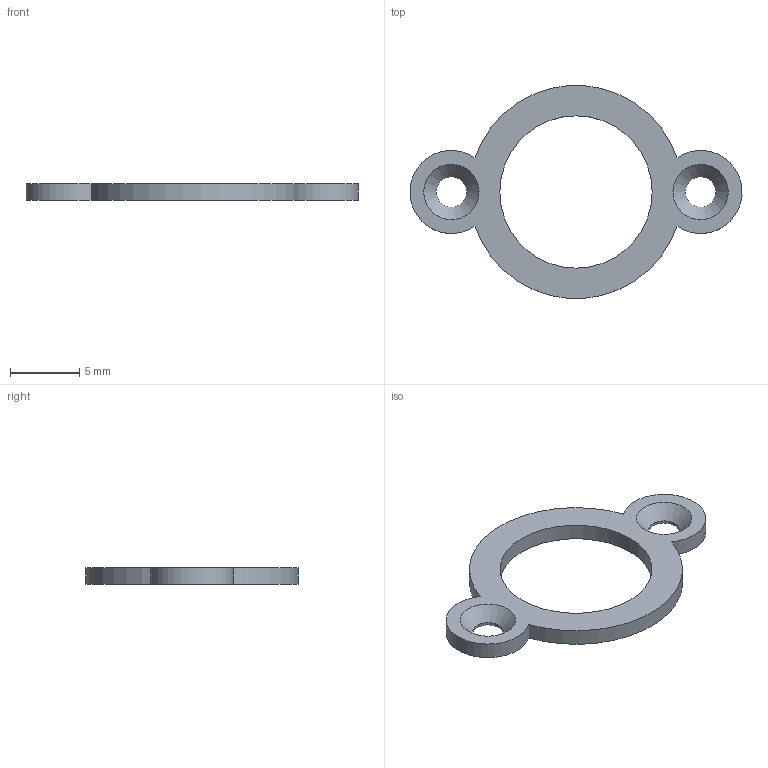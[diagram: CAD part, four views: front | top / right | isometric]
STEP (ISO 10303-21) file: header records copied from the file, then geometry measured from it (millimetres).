
FILE_DESCRIPTION(('Open CASCADE Model'),'2;1');
FILE_NAME('Open CASCADE Shape Model','2026-11-07T21:52:12',('Author'),( 'Open CASCADE'),'Open CASCADE STEP processor 7.9','Open CASCADE 7.9' ,'Unknown');
FILE_SCHEMA(('AUTOMOTIVE_DESIGN { 1 0 10303 214 1 1 1 1 }'));
Length unit declared in the file: millimetre
Products named in the file (1): Open CASCADE STEP translator 7.9 37
Bounding box: 23.98 x 15.35 x 1.2 mm (x, y, z)
Volume: 146.3 mm3; surface area: 387.3 mm2
Topology: 1 solids, 1 shells, 11 faces, 25 edges, 16 vertices
Faces by surface type: cylinder 7, plane 2, cone 2
Full cylindrical faces by diameter (mm): 2.2 x2, 11 x1
Entity records: 682 total; most frequent: CARTESIAN_POINT 159, DIRECTION 99, ORIENTED_EDGE 50, PCURVE 50, DEFINITIONAL_REPRESENTATION 50, LINE 37, VECTOR 37, AXIS2_PLACEMENT_3D 28
